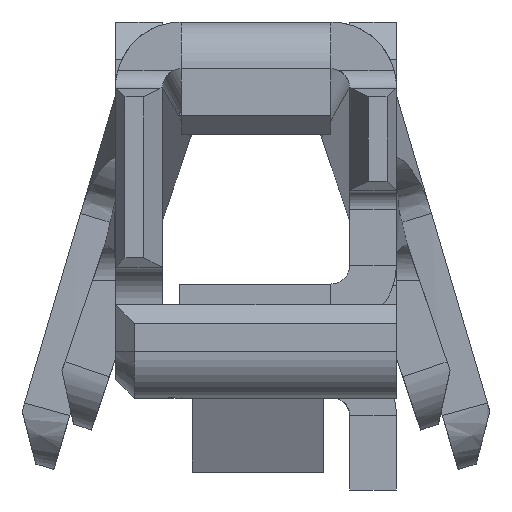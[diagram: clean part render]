
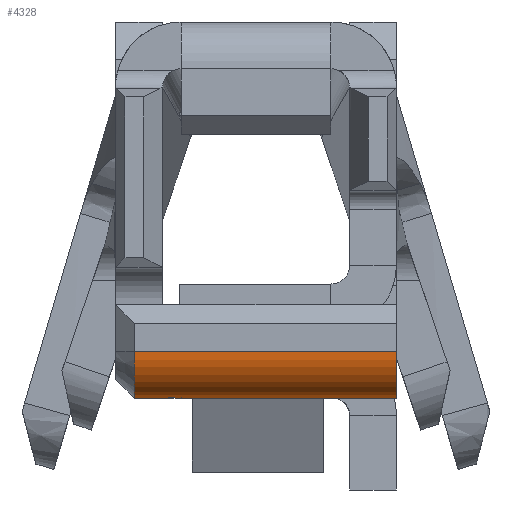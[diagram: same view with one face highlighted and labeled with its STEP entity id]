
A CAD part, front view. The second image highlights one B-rep face of the part: STEP entity #4328.
In plain terms, the highlighted cylindrical face has radius 0.25 mm (diameter 0.5 mm), a partial arc.
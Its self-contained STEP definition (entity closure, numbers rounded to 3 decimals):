
#58=CARTESIAN_POINT('',(-0.65,-15.25,-1.51));
#59=DIRECTION('',(1.,0.,0.));
#60=DIRECTION('',(0.,-1.,0.));
#61=AXIS2_PLACEMENT_3D('',#58,#59,#60);
#63=DIRECTION('',(1.,0.,0.));
#64=VECTOR('',#63,1.4);
#65=CARTESIAN_POINT('',(-0.65,-15.5,
-1.51));
#66=LINE('',#65,#64);
#67=CARTESIAN_POINT('',(0.75,-15.25,-1.51));
#68=DIRECTION('',(1.,0.,0.));
#69=DIRECTION('',(0.,-1.,0.));
#70=AXIS2_PLACEMENT_3D('',#67,#68,#69);
#72=DIRECTION('',(1.,0.,0.));
#73=VECTOR('',#72,1.15);
#74=CARTESIAN_POINT('',(-0.4,-15.25,-1.76));
#75=LINE('',#74,#73);
#76=DIRECTION('',(1.,0.,0.));
#77=VECTOR('',#76,0.25);
#78=CARTESIAN_POINT('',(-0.65,-15.25,-1.76));
#79=LINE('',#78,#77);
#3773=CARTESIAN_POINT('',(-0.4,-15.25,-1.76));
#3774=VERTEX_POINT('',#3773);
#3809=CARTESIAN_POINT('',(0.75,-15.5,-1.51));
#3810=CARTESIAN_POINT('',(0.75,-15.25,-1.76));
#3811=VERTEX_POINT('',#3809);
#3812=VERTEX_POINT('',#3810);
#4065=CARTESIAN_POINT('',(-0.65,-15.25,-1.76));
#4067=VERTEX_POINT('',#4065);
#4071=CARTESIAN_POINT('',(-0.65,-15.5,-1.51));
#4072=VERTEX_POINT('',#4071);
#4313=CARTESIAN_POINT('',(-0.75,-15.25,-1.51));
#4314=DIRECTION('',(1.,0.,0.));
#4315=DIRECTION('',(0.,-1.,0.));
#4316=AXIS2_PLACEMENT_3D('',#4313,#4314,#4315);
#4317=CYLINDRICAL_SURFACE('',#4316,0.25);
#4318=ORIENTED_EDGE('',*,*,#4297,.F.);
#4320=ORIENTED_EDGE('',*,*,#4319,.T.);
#4322=ORIENTED_EDGE('',*,*,#4321,.T.);
#4324=ORIENTED_EDGE('',*,*,#4323,.F.);
#4325=ORIENTED_EDGE('',*,*,#4273,.F.);
#4326=EDGE_LOOP('',(#4318,#4320,#4322,#4324,#4325));
#4327=FACE_OUTER_BOUND('',#4326,.F.);
#62=CIRCLE('',#61,0.25);
#71=CIRCLE('',#70,0.25);
#4273=EDGE_CURVE('',#4067,#3774,#79,.T.);
#4297=EDGE_CURVE('',#4072,#4067,#62,.T.);
#4319=EDGE_CURVE('',#4072,#3811,#66,.T.);
#4321=EDGE_CURVE('',#3811,#3812,#71,.T.);
#4323=EDGE_CURVE('',#3774,#3812,#75,.T.);
#4328=ADVANCED_FACE('',(#4327),#4317,.T.);
